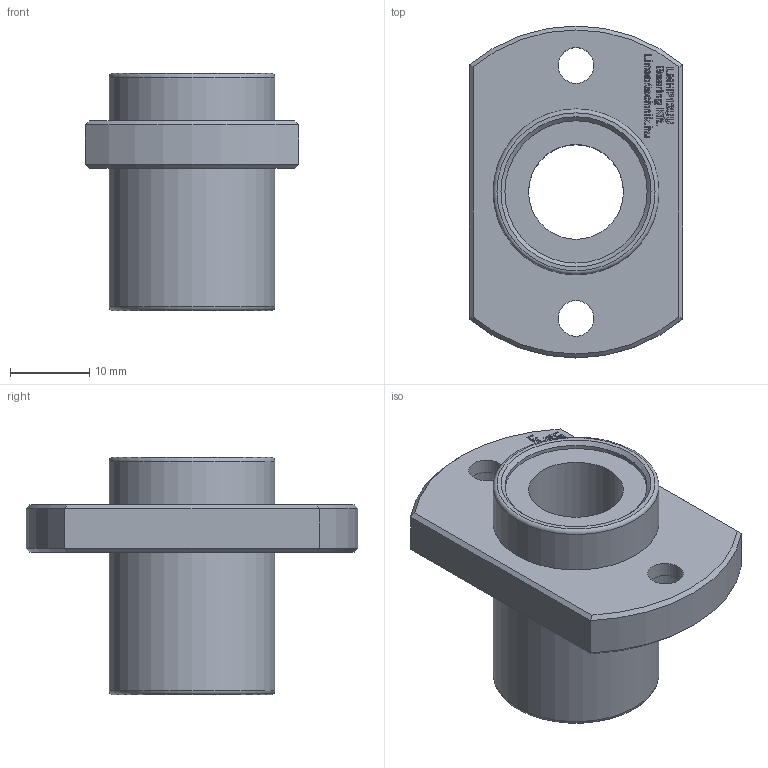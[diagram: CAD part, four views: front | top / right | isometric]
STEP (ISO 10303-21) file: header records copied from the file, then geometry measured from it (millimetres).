
FILE_DESCRIPTION(/* description */ (''),/* implementation_level */ '2;1');
FILE_NAME(/* name */ 'LMHP12UU',/* time_stamp */ '2019-07-09T13:42:51+02:00',/* author */ ('VĂ©gh MĂˇtĂ©'),/* organization */ ('Bearing Kft'),/* preprocessor_version */ 'ST-DEVELOPER v16.7',/* originating_system */ 'DEX',/* authorisation */ $);
FILE_SCHEMA (('AUTOMOTIVE_DESIGN {1 0 10303 214 3 1 1}'));
Length unit declared in the file: millimetre
Products named in the file (1): LMHP12UU
Bounding box: 27 x 42 x 30 mm (x, y, z)
Volume: 10462.2 mm3; surface area: 5426.4 mm2
Topology: 1 solids, 1 shells, 346 faces, 863 edges, 572 vertices
Faces by surface type: plane 262, bspline 62, cylinder 14, cone 6, torus 2
Full cylindrical faces by diameter (mm): 4.5 x2, 7.5 x2, 12 x1, 18 x2, 21 x2
Entity records: 12799 total; most frequent: CARTESIAN_POINT 4956, ORIENTED_EDGE 1694, DIRECTION 1321, EDGE_CURVE 847, LINE 679, VECTOR 679, VERTEX_POINT 570, EDGE_LOOP 419
